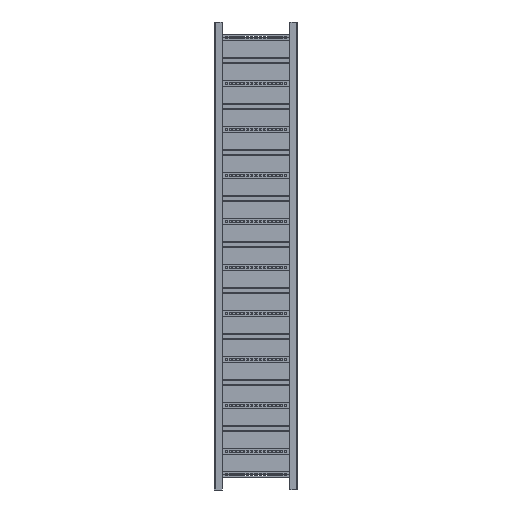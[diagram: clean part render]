
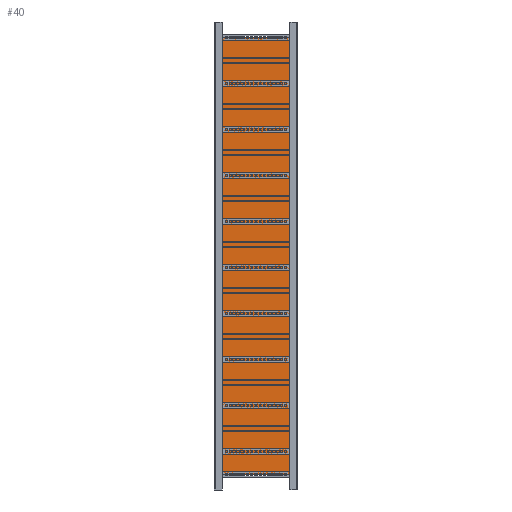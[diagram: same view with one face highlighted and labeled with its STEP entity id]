
A CAD part, front view. The second image highlights one B-rep face of the part: STEP entity #40.
In plain terms, the highlighted planar face has unit normal (0, 1, 0).
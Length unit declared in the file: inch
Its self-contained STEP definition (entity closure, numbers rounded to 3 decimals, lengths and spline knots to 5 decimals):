
#1=DIRECTION('',(0.,0.,-1.));
#2=VECTOR('',#1,110.2);
#3=CARTESIAN_POINT('',(-9.,-1.,-3.95512));
#4=LINE('',#3,#2);
#5=DIRECTION('',(1.,0.,0.));
#6=VECTOR('',#5,18.);
#7=CARTESIAN_POINT('',(-9.,-1.,-114.15512));
#8=LINE('',#7,#6);
#9=DIRECTION('',(0.,0.,1.));
#10=VECTOR('',#9,110.2);
#11=CARTESIAN_POINT('',(9.,-1.,-114.15512));
#12=LINE('',#11,#10);
#13=DIRECTION('',(-1.,0.,0.));
#14=VECTOR('',#13,18.);
#15=CARTESIAN_POINT('',(9.,-1.,-3.95512));
#16=LINE('',#15,#14);
#17=CARTESIAN_POINT('',(-9.,-1.,-114.15512));
#18=CARTESIAN_POINT('',(-9.,-1.,-3.95512));
#19=VERTEX_POINT('',#17);
#20=VERTEX_POINT('',#18);
#21=CARTESIAN_POINT('',(9.,-1.,-3.95512));
#22=VERTEX_POINT('',#21);
#23=CARTESIAN_POINT('',(9.,-1.,-114.15512));
#24=VERTEX_POINT('',#23);
#25=CARTESIAN_POINT('',(0.,-1.,0.));
#26=DIRECTION('',(0.,1.,0.));
#27=DIRECTION('',(1.,0.,0.));
#28=AXIS2_PLACEMENT_3D('',#25,#26,#27);
#29=PLANE('',#28);
#31=ORIENTED_EDGE('',*,*,#30,.T.);
#33=ORIENTED_EDGE('',*,*,#32,.T.);
#35=ORIENTED_EDGE('',*,*,#34,.T.);
#37=ORIENTED_EDGE('',*,*,#36,.T.);
#38=EDGE_LOOP('',(#31,#33,#35,#37));
#39=FACE_OUTER_BOUND('',#38,.F.);
#40=ADVANCED_FACE('',(#39),#29,.T.);
#30=EDGE_CURVE('',#20,#19,#4,.T.);
#32=EDGE_CURVE('',#19,#24,#8,.T.);
#34=EDGE_CURVE('',#24,#22,#12,.T.);
#36=EDGE_CURVE('',#22,#20,#16,.T.);
